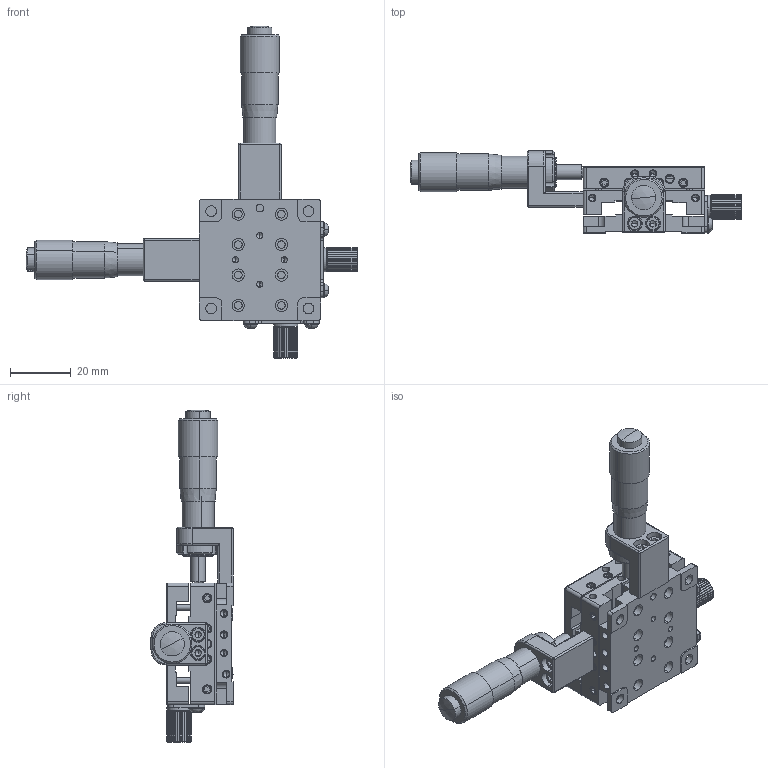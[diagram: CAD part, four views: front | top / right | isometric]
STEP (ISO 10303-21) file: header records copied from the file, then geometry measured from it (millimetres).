
FILE_DESCRIPTION (( 'STEP AP203' ), '1' );
FILE_NAME ('M-TCSJ40XY-05-BR-NOB.STEP', '2019-11-08T02:34:27', ( '匠星' ), ( '' ), 'SwSTEP 2.0', 'SolidWorks 2019', '' );
FILE_SCHEMA (( 'CONFIG_CONTROL_DESIGN' ));
Length unit declared in the file: millimetre
Products named in the file (15): M-TCSJ40XY-05-BR-NOB; socket head cap screw_am_B18.3.1M - 2.5 x 0.45 x 5 Hex SHCS -- 5NHX; MER-13前管-NOB; socket set screw cup point_am_B18.3.6M - M3 x 0.5 x 3 Hex Socket Type I Cup Pt. SS --N; TSJ40XY-LOCK固定片; ψ7.5X11.5L; 分厘卡牙環; M-TCSJ40XY-05-3; M-TCSJ40XY-05-2; M3-7.9華司; M1.6-扁沉頭_B18.3.1M - 2 x 0.4 x 6 Hex SHCS -- 6NHX; M-TCSJ40XY-05-1; MER-13後管-NOB; M2.5-5L_B18.3.4M - 3 x 0.5 x 5 SBHCS --N; TSJ40XY-中推分厘卡座
Assembly tree (49 placements, depth 2):
  M-TCSJ40XY-05-BR-NOB
    M-TCSJ40XY-05-3
    M-TCSJ40XY-05-2
    M-TCSJ40XY-05-1
    socket set screw cup point_am_B18.3.6M - M3 x 0.5 x 3 Hex Socket Type I Cup Pt. SS --N  x16
    M1.6-扁沉頭_B18.3.1M - 2 x 0.4 x 6 Hex SHCS -- 6NHX  x8
    MER-13後管-NOB  x2
    TSJ40XY-中推分厘卡座  x2
    MER-13前管-NOB  x2
    分厘卡牙環  x2
    TSJ40XY-LOCK固定片  x2
    ψ7.5X11.5L  x2
    M3-7.9華司  x2
    M2.5-5L_B18.3.4M - 3 x 0.5 x 5 SBHCS --N  x4
    socket head cap screw_am_B18.3.1M - 2.5 x 0.45 x 5 Hex SHCS -- 5NHX  x4
Bounding box: 109.24 x 27 x 109.24 mm (x, y, z)
Volume: 35771.5 mm3; surface area: 35974.9 mm2
Topology: 49 solids, 49 shells, 1858 faces, 4548 edges, 2785 vertices
Faces by surface type: plane 796, cylinder 696, cone 302, torus 44, sphere 20
Entity records: 32963 total; most frequent: DIRECTION 5568, CARTESIAN_POINT 5491, ORIENTED_EDGE 4910, EDGE_CURVE 2455, AXIS2_PLACEMENT_3D 2162, VERTEX_POINT 1585, EDGE_LOOP 1254, VECTOR 1244
